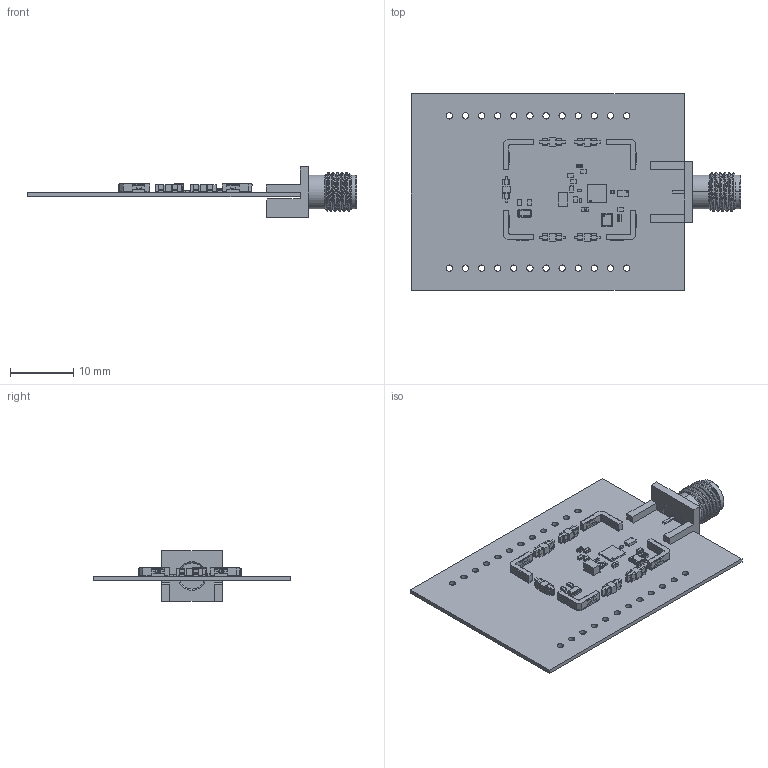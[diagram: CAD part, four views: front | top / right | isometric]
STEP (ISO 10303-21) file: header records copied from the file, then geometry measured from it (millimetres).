
FILE_DESCRIPTION(('Open CASCADE Model'),'2;1');
FILE_NAME('Open CASCADE Shape Model','2025-12-12T14:21:22',('Author'),( 'Open CASCADE'),'Open CASCADE STEP processor 7.5','Open CASCADE 7.5' ,'Unknown');
FILE_SCHEMA(('AUTOMOTIVE_DESIGN { 1 0 10303 214 1 1 1 1 }'));
Length unit declared in the file: millimetre
Products named in the file (100): PCB; Board; Open CASCADE STEP translator 7.5 2.1.1; U2; 6874222496; Sphere; 6874221856; Cylinder; 6874221696; Extruded; CN3; 132415; SB4; R0402; 6878176208; C13; C0402; 6878169488; C5; 6878167488; C10; Capacitors_0201_H0P3; 6878175168; C11; L1; STEP-WE-PMI-0805_STD-rev1; core; Pad; 6878175808; L2; 6878175408; 6878175488; 6878175568; 6878175648; C3; X1; NX2016; 6878171488; 6506097584; SB1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
Assembly tree (166 placements, depth 4):
  PCB
    Board
      Open CASCADE STEP translator 7.5 2.1.1
    U2
      6874222496  x6
        Sphere
      6874221856
        Cylinder
      6874221696
        Extruded
    CN3
      132415
    SB4
      R0402
      6878176208
        Extruded
    C13
      C0402
      6878169488
        Extruded
    C5
      C0402
      6878167488
        Extruded
    C10
      Capacitors_0201_H0P3
      6878175168
        Extruded
    C11
      C0402
      6878169488
        Extruded
    L1
      STEP-WE-PMI-0805_STD-rev1
        core
        Pad  x2
      6878175808
        Extruded
    L2
      6878175408
      6878175408
      6878175488
        Extruded
      6878175568
      6878175568
      6878175648
        Extruded
    C3
      Capacitors_0201_H0P3
      6878175168
        Extruded
    X1
      NX2016
      6878171488
        Extruded
      6506097584
        Extruded
    SB1
      R0402
      7082572688
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Bounding box: 51.89 x 31 x 7.92 mm (x, y, z)
Volume: 1233.6 mm3; surface area: 4016.7 mm2
Topology: 115 solids, 121 shells, 4187 faces, 9816 edges, 5678 vertices
Faces by surface type: plane 2360, cylinder 1111, bspline 458, sphere 156, revolution 64, cone 20, torus 18
Full cylindrical faces by diameter (mm): 0.2 x1, 0.3 x1, 1 x24
Entity records: 53783 total; most frequent: CARTESIAN_POINT 16695, DIRECTION 6929, ORIENTED_EDGE 6786, EDGE_CURVE 3394, LINE 2363, VECTOR 2363, AXIS2_PLACEMENT_3D 2279, VERTEX_POINT 2049
